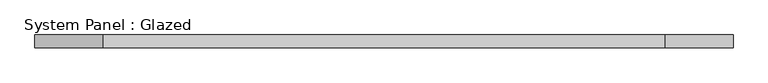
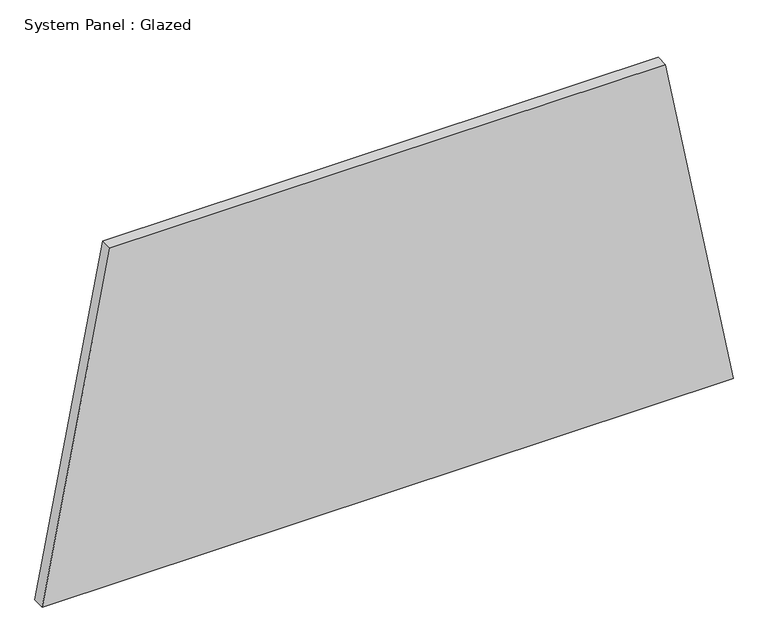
"""IFC4 building model written with IfcOpenShell, lengths in millimetres: plate geometry, System Panel : Glazed."""

from ifc_helpers import new_model, si_unit, frame, origin, place, context, project, spatial, polyline, outline, extrude, source, transform, mapped, element, save


def system_panel_glazed_f537650c(model_context):
    return source(origin(), model_context, "Body", "SweptSolid", [
        extrude(outline(polyline([(0.0, -702.0269556), (0.0, 702.0269556), (723.1291385, 564.2205551), (723.1291385, -564.2205551), (0.0, -702.0269556)])), frame((0.0, 19.05, 0.0), z_axis=(0.0, 1.0, 0.0), x_axis=(0.0, 0.0, 1.0)), (0.0, 0.0, 1.0), 25.4),
    ])


if __name__ == "__main__":
    model = new_model("IFC4")
    model_context = context("Model", 3, world=origin())
    ifc_project = project(units=[si_unit("LENGTHUNIT", "METRE", prefix="MILLI")], contexts=[model_context])
    site = spatial("IfcSite", under=ifc_project)
    building = spatial("IfcBuilding", under=site)
    placement = place(None, origin())
    system_panel_glazed_shape = system_panel_glazed_f537650c(model_context)
    element("IfcPlate", 1, ObjectType="System Panel : Glazed", at=placement, inside=building, context=model_context, shape_type="MappedRepresentation", body=[
        mapped(system_panel_glazed_shape, transform((0.0, 0.0, 0.0), x_axis=(1.0, 0.0, 0.0), y_axis=(0.0, 1.0, 0.0), z_axis=(0.0, 0.0, 1.0))),
    ])
    save(model, "model.ifc")
